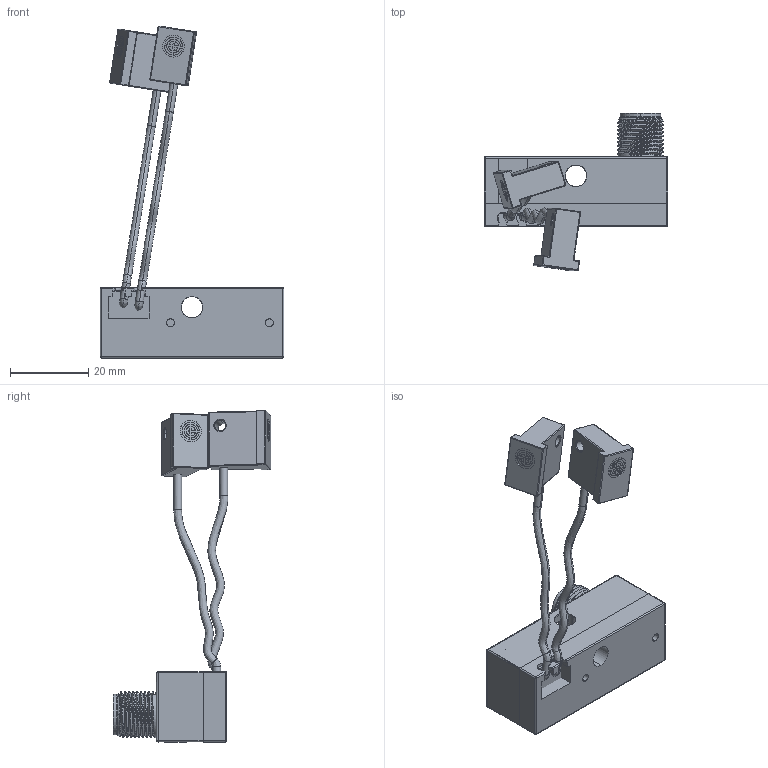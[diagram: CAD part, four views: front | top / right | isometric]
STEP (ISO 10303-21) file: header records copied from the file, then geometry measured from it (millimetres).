
FILE_DESCRIPTION (( 'STEP AP203' ), '1' );
FILE_NAME ('SST18Y(6.23).STEP', '2018-06-23T03:19:09', ( 'sdl' ), ( '' ), 'SwSTEP 2.0', 'SolidWorks 2010', '' );
FILE_SCHEMA (( 'CONFIG_CONTROL_DESIGN' ));
Length unit declared in the file: millimetre
Products named in the file (1): SST18Y(6.23)
Bounding box: 47 x 40.32 x 84.95 mm (x, y, z)
Volume: 27475.1 mm3; surface area: 13543.8 mm2
Topology: 4 solids, 5 shells, 750 faces, 2028 edges, 1271 vertices
Faces by surface type: plane 311, cylinder 299, bspline 105, cone 25, torus 10
Entity records: 32198 total; most frequent: CARTESIAN_POINT 14521, ORIENTED_EDGE 3952, DIRECTION 3272, EDGE_CURVE 1976, VERTEX_POINT 1271, AXIS2_PLACEMENT_3D 1111, VECTOR 1050, LINE 1050
